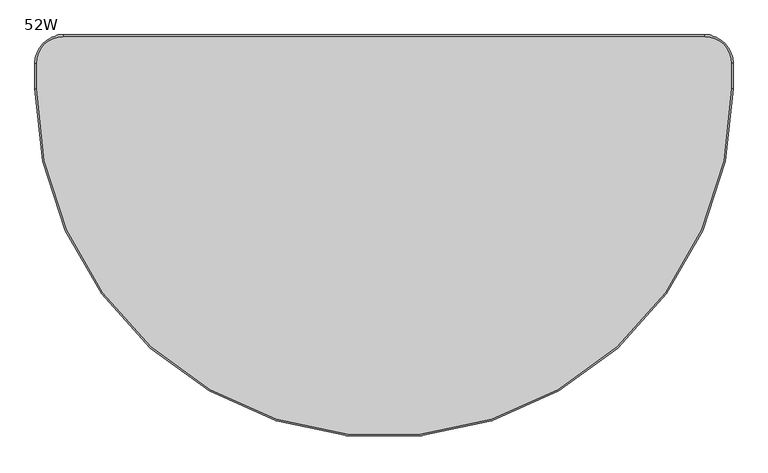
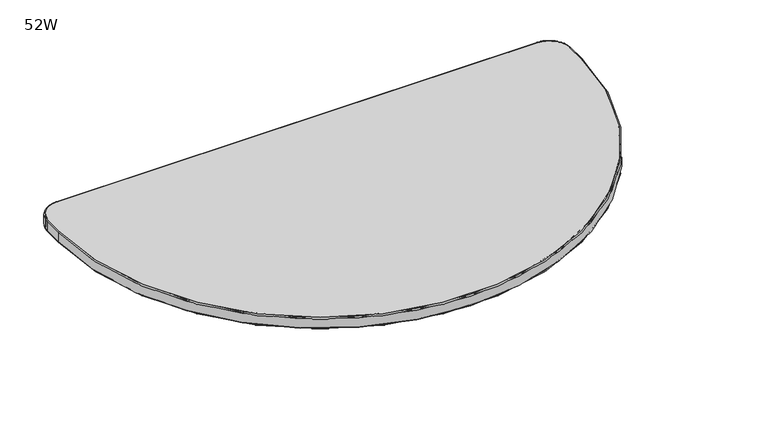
"""IFC4 building model written with IfcOpenShell, lengths in millimetres: furniture geometry, Steelcase - Answer Solution - Universal Table - Spanner : 52W."""

from ifc_helpers import new_model, si_unit, point, frame, frame_2d, origin, place, context, project, spatial, polyline, circle_curve, ellipse_curve, trimmed, segment, composite_curve, outline, extrude, source, transform, mapped, element, save
from ifc_brep_helpers import plane_surface, cylinder_surface, revolved_surface, advanced_brep


def furniture_52w_7c983797(model_context):
    return source(origin(), model_context, "Body", "SolidModel", [
        extrude(outline(composite_curve([segment(polyline([(-606.552, -3.0479999), (606.552, -3.0479999)]), True, "CONTINUOUS"), segment(trimmed(circle_curve(frame_2d((606.552, -53.8479999)), 50.8), [point((606.552, -3.0479999))], [point((657.352, -53.8479999))], False, "CARTESIAN"), True, "CONTINUOUS"), segment(polyline([(657.352, -53.8479999), (657.352, -101.5999999)]), True, "CONTINUOUS"), segment(trimmed(circle_curve(frame_2d((0.0, -101.5999999)), 657.352), [point((657.352, -101.5999999))], [point((-657.352, -101.5999999))], False, "CARTESIAN"), True, "CONTINUOUS"), segment(polyline([(-657.352, -101.5999999), (-657.352, -53.8479999)]), True, "CONTINUOUS"), segment(trimmed(circle_curve(frame_2d((-606.552, -53.8479999)), 50.8), [point((-657.352, -53.8479999))], [point((-606.552, -3.0479999))], False, "CARTESIAN"), True, "CONTINUOUS")], self_intersect=False)), frame((0.0, 0.0, 668.274), z_axis=(0.0, 0.0, 1.0), x_axis=(1.0, 0.0, 0.0)), (0.0, 0.0, 1.0), 30.1752685),
        advanced_brep(
        [(-660.3999999, -53.8479999, 671.3219999), (-606.552, 0.0, 671.3219999), (-606.552, -3.0479999, 668.274), (-657.352, -53.8479999, 668.274), (-660.3999999, -53.8479999, 695.4012686), (-606.552, 0.0, 695.4012686), (-657.352, -53.8479999, 698.4492685), (-606.552, -3.0479999, 698.4492685), (-657.352, -101.5999999, 668.274), (-660.3999999, -101.5999999, 671.3219999), (-660.3999999, -101.5999999, 695.4012686), (-657.352, -101.5999999, 698.4492685), (660.3999999, -101.5999999, 671.3219999), (657.352, -101.5999999, 668.274), (660.3999999, -101.5999999, 695.4012686), (657.352, -101.5999999, 698.4492685), (657.352, -53.8479999, 668.274), (660.3999999, -53.8479999, 671.3219999), (660.3999999, -53.8479999, 695.4012686), (657.352, -53.8479999, 698.4492685), (606.552, 0.0, 671.3219999), (606.552, -3.0479999, 668.274), (606.552, 0.0, 695.4012686), (606.552, -3.0479999, 698.4492685)],
        [
            (0, 1, circle_curve(frame((-606.552, -53.8479999, 671.3219999), z_axis=(0.0, 0.0, -1.0), x_axis=(0.0, 1.0, 0.0)), 53.8479999)),
            (1, 2, circle_curve(frame((-606.552, -3.0479999, 671.3219999), z_axis=(-1.0, 0.0, 0.0), x_axis=(0.0, -1.0, 0.0)), 3.0479999)),
            (2, 3, circle_curve(frame((-606.552, -53.8479999, 668.274), z_axis=(0.0, 0.0, 1.0), x_axis=(0.0, 1.0, 0.0)), 50.8)),
            (3, 0, circle_curve(frame((-657.352, -53.8479999, 671.3219999), z_axis=(0.0, 1.0, 0.0), x_axis=(1.0, 0.0, 0.0)), 3.0479999)),
            (4, 5, circle_curve(frame((-606.552, -53.8479999, 695.4012686), z_axis=(0.0, 0.0, -1.0), x_axis=(0.0, 1.0, 0.0)), 53.8479999)),
            (5, 1),
            (0, 4),
            (6, 7, circle_curve(frame((-606.552, -53.8479999, 698.4492685), z_axis=(0.0, 0.0, -1.0), x_axis=(0.0, 1.0, 0.0)), 50.8)),
            (7, 5, circle_curve(frame((-606.552, -3.0479999, 695.4012686), z_axis=(-1.0, 0.0, 0.0), x_axis=(0.0, -1.0, 0.0)), 3.0479999)),
            (4, 6, circle_curve(frame((-657.352, -53.8479999, 695.4012686), z_axis=(0.0, 1.0, 0.0), x_axis=(1.0, 0.0, 0.0)), 3.0479999)),
            (2, 7),
            (6, 3),
            (3, 8),
            (8, 9, circle_curve(frame((-657.352, -101.5999999, 671.3219999), z_axis=(0.0, 1.0, 0.0), x_axis=(1.0, 0.0, 0.0)), 3.0479999)),
            (9, 0),
            (9, 10),
            (10, 4),
            (10, 11, circle_curve(frame((-657.352, -101.5999999, 695.4012686), z_axis=(0.0, 1.0, 0.0), x_axis=(1.0, 0.0, 0.0)), 3.0479999)),
            (11, 6),
            (11, 8),
            (12, 9, circle_curve(frame((0.0, -101.5999999, 671.3219999), z_axis=(0.0, 0.0, -1.0), x_axis=(-1.0, 0.0, 0.0)), 660.3999999)),
            (8, 13, circle_curve(frame((0.0, -101.5999999, 668.274), z_axis=(0.0, 0.0, 1.0), x_axis=(-1.0, 0.0, 0.0)), 657.352)),
            (13, 12, circle_curve(frame((657.352, -101.5999999, 671.3219999), z_axis=(0.0, -1.0, 0.0), x_axis=(-1.0, 0.0, 0.0)), 3.0479999)),
            (14, 10, circle_curve(frame((0.0, -101.5999999, 695.4012686), z_axis=(0.0, 0.0, -1.0), x_axis=(-1.0, 0.0, 0.0)), 660.3999999)),
            (12, 14),
            (15, 11, circle_curve(frame((0.0, -101.5999999, 698.4492685), z_axis=(0.0, 0.0, -1.0), x_axis=(-1.0, 0.0, 0.0)), 657.352)),
            (14, 15, circle_curve(frame((657.352, -101.5999999, 695.4012686), z_axis=(0.0, -1.0, 0.0), x_axis=(-1.0, 0.0, 0.0)), 3.0479999)),
            (15, 13),
            (13, 16),
            (16, 17, circle_curve(frame((657.352, -53.8479999, 671.3219999), z_axis=(0.0, -1.0, 0.0), x_axis=(-1.0, 0.0, 0.0)), 3.0479999)),
            (17, 12),
            (17, 18),
            (18, 14),
            (18, 19, circle_curve(frame((657.352, -53.8479999, 695.4012686), z_axis=(0.0, -1.0, 0.0), x_axis=(-1.0, 0.0, 0.0)), 3.0479999)),
            (19, 15),
            (19, 16),
            (20, 17, circle_curve(frame((606.552, -53.8479999, 671.3219999), z_axis=(0.0, 0.0, -1.0), x_axis=(1.0, 0.0, 0.0)), 53.8479999)),
            (16, 21, circle_curve(frame((606.552, -53.8479999, 668.274), z_axis=(0.0, 0.0, 1.0), x_axis=(1.0, 0.0, 0.0)), 50.8)),
            (21, 20, circle_curve(frame((606.552, -3.0479999, 671.3219999), z_axis=(1.0, 0.0, 0.0), x_axis=(0.0, -1.0, 0.0)), 3.0479999)),
            (22, 18, circle_curve(frame((606.552, -53.8479999, 695.4012686), z_axis=(0.0, 0.0, -1.0), x_axis=(1.0, 0.0, 0.0)), 53.8479999)),
            (20, 22),
            (23, 19, circle_curve(frame((606.552, -53.8479999, 698.4492685), z_axis=(0.0, 0.0, -1.0), x_axis=(1.0, 0.0, 0.0)), 50.8)),
            (22, 23, circle_curve(frame((606.552, -3.0479999, 695.4012686), z_axis=(1.0, 0.0, 0.0), x_axis=(0.0, -1.0, 0.0)), 3.0479999)),
            (23, 21),
            (21, 2),
            (1, 20),
            (5, 22),
            (7, 23),
        ],
        [
            revolved_surface(trimmed(ellipse_curve(frame((-606.552, -3.0479999, 671.3219999), z_axis=(1.0, 0.0, 0.0), x_axis=(0.0, -1.0, 0.0)), 3.0479999, 3.0479999), [point((-606.552, -3.0479999, 668.274))], [point((-606.552, 0.0, 671.3219999))], True, "CARTESIAN"), (-606.552, -53.8479999, 668.274), (0.0, 0.0, 1.0)),
            cylinder_surface(frame((-606.552, -53.8479999, 668.274), z_axis=(0.0, 0.0, 1.0), x_axis=(0.0, 1.0, 0.0)), 53.8479999),
            revolved_surface(trimmed(ellipse_curve(frame((-606.552, -3.0479999, 695.4012686), z_axis=(1.0, 0.0, 0.0), x_axis=(0.0, -1.0, 0.0)), 3.0479999, 3.0479999), [point((-606.552, 0.0, 695.4012686))], [point((-606.552, -3.0479999, 698.4492685))], True, "CARTESIAN"), (-606.552, -53.8479999, 668.274), (0.0, 0.0, 1.0)),
            revolved_surface(polyline([(-606.552, -3.0479999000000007, 698.4492685), (-606.552, -3.0479999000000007, 668.274)]), (-606.552, -53.8479999, 668.274), (0.0, 0.0, 1.0)),
            cylinder_surface(frame((-657.352, -53.8479999, 671.3219999), z_axis=(0.0, 1.0, 0.0), x_axis=(1.0, 0.0, 0.0)), 3.0479999),
            plane_surface(frame((-660.3999999, -53.8479999, 671.3219999), z_axis=(-1.0, 0.0, 0.0), x_axis=(0.0, -1.0, 0.0))),
            cylinder_surface(frame((-657.352, -53.8479999, 695.4012686), z_axis=(0.0, 1.0, 0.0), x_axis=(1.0, 0.0, 0.0)), 3.0479999),
            plane_surface(frame((-657.352, -53.8479999, 698.4492685), z_axis=(1.0, 0.0, 0.0), x_axis=(0.0, -1.0, 0.0))),
            revolved_surface(trimmed(ellipse_curve(frame((-657.352, -101.5999999, 671.3219999), z_axis=(0.0, 1.0, 0.0), x_axis=(1.0, 0.0, 0.0)), 3.0479999, 3.0479999), [point((-657.352, -101.5999999, 668.274))], [point((-660.3999999, -101.5999999, 671.3219999))], True, "CARTESIAN"), (0.0, -101.5999999, 668.274), (0.0, 0.0, 1.0)),
            cylinder_surface(frame((0.0, -101.5999999, 668.274), z_axis=(0.0, 0.0, 1.0), x_axis=(-1.0, 0.0, 0.0)), 660.3999999),
            revolved_surface(trimmed(ellipse_curve(frame((-657.352, -101.5999999, 695.4012686), z_axis=(0.0, 1.0, 0.0), x_axis=(1.0, 0.0, 0.0)), 3.0479999, 3.0479999), [point((-660.3999999, -101.5999999, 695.4012686))], [point((-657.352, -101.5999999, 698.4492685))], True, "CARTESIAN"), (0.0, -101.5999999, 668.274), (0.0, 0.0, 1.0)),
            revolved_surface(polyline([(-657.352, -101.5999999, 698.4492685), (-657.352, -101.5999999, 668.274)]), (0.0, -101.5999999, 668.274), (0.0, 0.0, 1.0)),
            cylinder_surface(frame((657.352, -101.5999999, 671.3219999), z_axis=(0.0, -1.0, 0.0), x_axis=(-1.0, 0.0, 0.0)), 3.0479999),
            plane_surface(frame((660.3999999, -101.5999999, 671.3219999), z_axis=(1.0, 0.0, 0.0), x_axis=(0.0, 1.0, 0.0))),
            cylinder_surface(frame((657.352, -101.5999999, 695.4012686), z_axis=(0.0, -1.0, 0.0), x_axis=(-1.0, 0.0, 0.0)), 3.0479999),
            plane_surface(frame((657.352, -101.5999999, 698.4492685), z_axis=(-1.0, 0.0, 0.0), x_axis=(0.0, 1.0, 0.0))),
            revolved_surface(trimmed(ellipse_curve(frame((657.352, -53.8479999, 671.3219999), z_axis=(0.0, -1.0, 0.0), x_axis=(-1.0, 0.0, 0.0)), 3.0479999, 3.0479999), [point((657.352, -53.8479999, 668.274))], [point((660.3999999, -53.8479999, 671.3219999))], True, "CARTESIAN"), (606.552, -53.8479999, 668.274), (0.0, 0.0, 1.0)),
            cylinder_surface(frame((606.552, -53.8479999, 668.274), z_axis=(0.0, 0.0, 1.0), x_axis=(1.0, 0.0, 0.0)), 53.8479999),
            revolved_surface(trimmed(ellipse_curve(frame((657.352, -53.8479999, 695.4012686), z_axis=(0.0, -1.0, 0.0), x_axis=(-1.0, 0.0, 0.0)), 3.0479999, 3.0479999), [point((660.3999999, -53.8479999, 695.4012686))], [point((657.352, -53.8479999, 698.4492685))], True, "CARTESIAN"), (606.552, -53.8479999, 668.274), (0.0, 0.0, 1.0)),
            revolved_surface(polyline([(657.352, -53.8479999, 698.4492685), (657.352, -53.8479999, 668.274)]), (606.552, -53.8479999, 668.274), (0.0, 0.0, 1.0)),
            cylinder_surface(frame((606.552, -3.0479999, 671.3219999), z_axis=(1.0, 0.0, 0.0), x_axis=(0.0, -1.0, 0.0)), 3.0479999),
            plane_surface(frame((606.552, 0.0, 671.3219999), z_axis=(0.0, 1.0, 0.0), x_axis=(-1.0, 0.0, 0.0))),
            cylinder_surface(frame((606.552, -3.0479999, 695.4012686), z_axis=(1.0, 0.0, 0.0), x_axis=(0.0, -1.0, 0.0)), 3.0479999),
            plane_surface(frame((606.552, -3.0479999, 698.4492685), z_axis=(0.0, -1.0, 0.0), x_axis=(-1.0, 0.0, 0.0))),
        ],
        [
            (0, [[1, 2, 3, 4]]),
            (1, [[5, 6, -1, 7]]),
            (2, [[8, 9, -5, 10]]),
            (3, [[-3, 11, -8, 12]]),
            (4, [[-4, 13, 14, 15]]),
            (5, [[-7, -15, 16, 17]]),
            (6, [[-10, -17, 18, 19]]),
            (7, [[-12, -19, 20, -13]]),
            (8, [[21, -14, 22, 23]]),
            (9, [[24, -16, -21, 25]]),
            (10, [[26, -18, -24, 27]]),
            (11, [[-22, -20, -26, 28]]),
            (12, [[-23, 29, 30, 31]]),
            (13, [[-25, -31, 32, 33]]),
            (14, [[-27, -33, 34, 35]]),
            (15, [[-28, -35, 36, -29]]),
            (16, [[37, -30, 38, 39]]),
            (17, [[40, -32, -37, 41]]),
            (18, [[42, -34, -40, 43]]),
            (19, [[-38, -36, -42, 44]]),
            (20, [[-39, 45, -2, 46]]),
            (21, [[-41, -46, -6, 47]]),
            (22, [[-43, -47, -9, 48]]),
            (23, [[-44, -48, -11, -45]]),
        ],
    ),
    ])


if __name__ == "__main__":
    model = new_model("IFC4")
    model_context = context("Model", 3, world=origin())
    ifc_project = project(units=[si_unit("LENGTHUNIT", "METRE", prefix="MILLI")], contexts=[model_context])
    site = spatial("IfcSite", under=ifc_project)
    building = spatial("IfcBuilding", under=site)
    placement = place(None, origin())
    furniture_52w_shape = furniture_52w_7c983797(model_context)
    element("IfcFurniture", 1, ObjectType="Steelcase - Answer Solution - Universal Table - Spanner : 52W", at=placement, inside=building, context=model_context, shape_type="MappedRepresentation", body=[
        mapped(furniture_52w_shape, transform((0.0, 0.0, 0.0), x_axis=(1.0, 0.0, 0.0), y_axis=(0.0, 1.0, 0.0), z_axis=(0.0, 0.0, 1.0))),
    ])
    save(model, "model.ifc")
